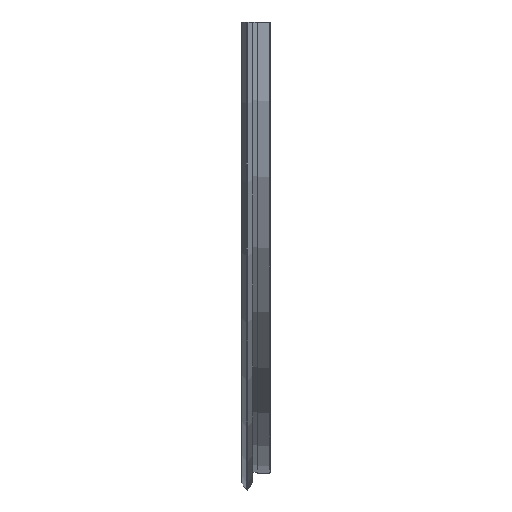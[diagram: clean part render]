
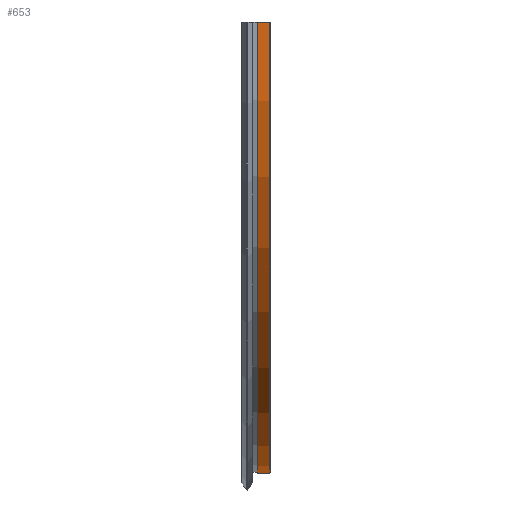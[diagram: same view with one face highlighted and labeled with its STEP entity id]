
A CAD part, left-side view. The second image highlights one B-rep face of the part: STEP entity #653.
In plain terms, the highlighted cylindrical face has radius 243.75 mm (diameter 487.5 mm), a partial arc.
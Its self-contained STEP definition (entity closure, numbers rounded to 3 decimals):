
#653 = ADVANCED_FACE( '', ( #2201 ), #2202, .T. );
#2201 = FACE_OUTER_BOUND( '', #4102, .T. );
#2202 = CYLINDRICAL_SURFACE( '', #4103, 243.75 );
#4102 = EDGE_LOOP( '', ( #10618, #10619, #10620, #10621 ) );
#4103 = AXIS2_PLACEMENT_3D( '', #10622, #10623, #10624 );
#10618 = ORIENTED_EDGE( '', *, *, #14904, .F. );
#10619 = ORIENTED_EDGE( '', *, *, #15676, .T. );
#10620 = ORIENTED_EDGE( '', *, *, #15674, .T. );
#10621 = ORIENTED_EDGE( '', *, *, #14897, .T. );
#10622 = CARTESIAN_POINT( '', ( 0., 0., 0. ) );
#10623 = DIRECTION( '', ( 0., 1., 0. ) );
#10624 = DIRECTION( '', ( 0., 0., -1. ) );
#14897 = EDGE_CURVE( '', #19441, #19439, #19442, .T. );
#14904 = EDGE_CURVE( '', #19454, #19439, #19455, .T. );
#15674 = EDGE_CURVE( '', #20263, #19441, #20264, .T. );
#15676 = EDGE_CURVE( '', #19454, #20263, #20266, .F. );
#19439 = VERTEX_POINT( '', #26541 );
#19441 = VERTEX_POINT( '', #26546 );
#19442 = LINE( '', #26547, #26548 );
#19454 = VERTEX_POINT( '', #26576 );
#19455 = CIRCLE( '', #26577, 243.75 );
#20263 = VERTEX_POINT( '', #27406 );
#20264 = CIRCLE( '', #27407, 243.75 );
#20266 = LINE( '', #27410, #27411 );
#26541 = CARTESIAN_POINT( '', ( 243.742, 0.5, -2. ) );
#26546 = CARTESIAN_POINT( '', ( 243.742, 7., -2. ) );
#26547 = CARTESIAN_POINT( '', ( 243.742, 0., -2. ) );
#26548 = VECTOR( '', #29022, 1000. );
#26576 = CARTESIAN_POINT( '', ( -243.742, 0.5, -2. ) );
#26577 = AXIS2_PLACEMENT_3D( '', #29026, #29027, #29028 );
#27406 = CARTESIAN_POINT( '', ( -243.742, 7., -2. ) );
#27407 = AXIS2_PLACEMENT_3D( '', #31311, #31312, #31313 );
#27410 = CARTESIAN_POINT( '', ( -243.742, 0., -2. ) );
#27411 = VECTOR( '', #31315, 1000. );
#29022 = DIRECTION( '', ( 0., -1., 0. ) );
#29026 = CARTESIAN_POINT( '', ( 0., 0.5, 0. ) );
#29027 = DIRECTION( '', ( 0., -1., 0. ) );
#29028 = DIRECTION( '', ( 0., 0., -1. ) );
#31311 = CARTESIAN_POINT( '', ( 0., 7., 0. ) );
#31312 = DIRECTION( '', ( 0., -1., 0. ) );
#31313 = DIRECTION( '', ( 0., 0., -1. ) );
#31315 = DIRECTION( '', ( 0., -1., 0. ) );
